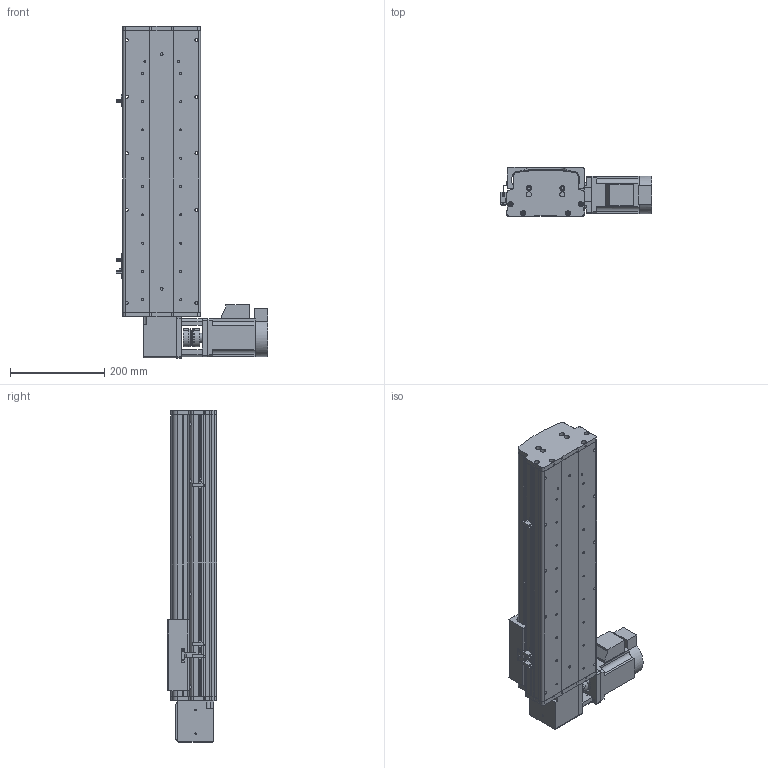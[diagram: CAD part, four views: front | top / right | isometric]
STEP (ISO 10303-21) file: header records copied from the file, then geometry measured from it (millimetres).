
FILE_DESCRIPTION (( 'STEP AP214' ), '1' );
FILE_NAME ('KSD165B-S350-MRT-CM .STEP', '2017-08-07T09:20:45', ( '微软用户' ), ( '微软中国' ), 'SwSTEP 2.0', 'SolidWorks 2014', '' );
FILE_SCHEMA (( 'AUTOMOTIVE_DESIGN' ));
Length unit declared in the file: millimetre
Products named in the file (16): KSD165模组同步带底板-350行程-最新; 拸秶雄ん750W侜督萇儂; 165宽安装板同步带带电机座750W; 165宽马达安装板同步带右; C39ㄜ1419WP; U倰嫖萇假蚾璃; U倰嫖萇EEㄜSX672; 覜茼え68遵圉猾敕; KSD165模组-同步带-防撞垫2; KSD165模组同步带-防撞垫1; KSD165耀郪-ヶ傷啣1-肮祭湍; KSD165模组-后端板1-同步带; 130宽马达安装板1-带电机座750W（1）; KSD165模组-同步带滑动座-最新版; KSD165B-S350-MRT-CM ; KSD165模组-同步带防尘盖1-350行程-最新版
Assembly tree (19 placements, depth 2):
  KSD165B-S350-MRT-CM 
    KSD165模组-同步带滑动座-最新版
    130宽马达安装板1-带电机座750W（1）
    KSD165模组-后端板1-同步带
    KSD165耀郪-ヶ傷啣1-肮祭湍
    KSD165模组同步带-防撞垫1
    KSD165模组-同步带-防撞垫2
    覜茼え68遵圉猾敕
    U倰嫖萇EEㄜSX672  x3
    U倰嫖萇假蚾璃  x3
    C39ㄜ1419WP
    165宽马达安装板同步带右
    165宽安装板同步带带电机座750W
    拸秶雄ん750W侜督萇儂
    KSD165模组同步带底板-350行程-最新
    KSD165模组-同步带防尘盖1-350行程-最新版
Bounding box: 321.2 x 104 x 704 mm (x, y, z)
Volume: 4955685.7 mm3; surface area: 1088760.5 mm2
Topology: 20 solids, 20 shells, 1410 faces, 3906 edges, 2525 vertices
Faces by surface type: cylinder 747, plane 569, cone 94
Entity records: 44055 total; most frequent: CARTESIAN_POINT 9233, DIRECTION 6884, ORIENTED_EDGE 6464, EDGE_CURVE 3232, AXIS2_PLACEMENT_3D 2600, VERTEX_POINT 2117, VECTOR 1684, LINE 1684
